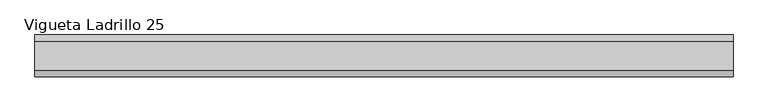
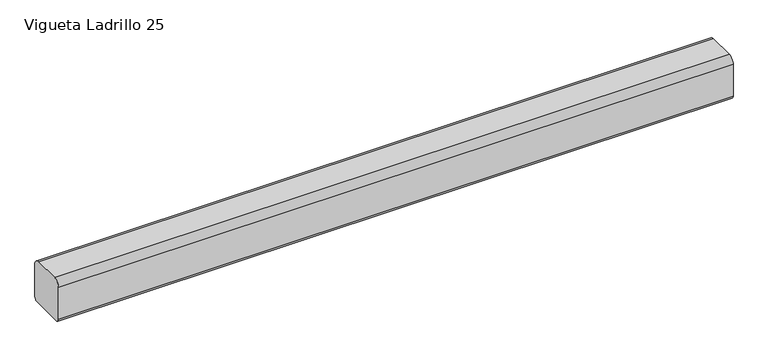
"""IFC4 building model written with IfcOpenShell, lengths in millimetres: beam geometry, Vigueta Ladrillo 25 : Ladrillo Exacta 25."""

from ifc_helpers import new_model, si_unit, point, frame, frame_2d, origin, place, context, project, spatial, polyline, circle_curve, trimmed, segment, composite_curve, outline, extrude, source, transform, mapped, element, save


def vigueta_ladrillo_25_3ea38565(model_context):
    return source(origin(), model_context, "Body", "SweptSolid", [
        extrude(outline(composite_curve([segment(trimmed(circle_curve(frame_2d((64.7, 73.1)), 30.5), [point((64.7, 103.6))], [point((95.2, 73.1))], False, "CARTESIAN"), True, "CONTINUOUS"), segment(polyline([(95.2, 73.1), (95.2, -85.3)]), True, "CONTINUOUS"), segment(trimmed(circle_curve(frame_2d((76.9, -85.3)), 18.3), [point((95.2, -85.3))], [point((76.9, -103.6))], False, "CARTESIAN"), True, "CONTINUOUS"), segment(polyline([(76.9, -103.6), (-76.9, -103.6)]), True, "CONTINUOUS"), segment(trimmed(circle_curve(frame_2d((-76.9, -85.3)), 18.3), [point((-76.9, -103.6))], [point((-95.2, -85.3))], False, "CARTESIAN"), True, "CONTINUOUS"), segment(polyline([(-95.2, -85.3), (-95.2, 73.1)]), True, "CONTINUOUS"), segment(trimmed(circle_curve(frame_2d((-64.7, 73.1)), 30.5), [point((-95.2, 73.1))], [point((-64.7, 103.6))], False, "CARTESIAN"), True, "CONTINUOUS"), segment(polyline([(-64.7, 103.6), (64.7, 103.6)]), True, "CONTINUOUS")], self_intersect=False)), frame((-1582.7, 0.0, 0.0), z_axis=(1.0, 0.0, 0.0), x_axis=(0.0, 1.0, 0.0)), (0.0, 0.0, 1.0), 3165.4),
    ])


if __name__ == "__main__":
    model = new_model("IFC4")
    model_context = context("Model", 3, world=origin())
    ifc_project = project(units=[si_unit("LENGTHUNIT", "METRE", prefix="MILLI")], contexts=[model_context])
    site = spatial("IfcSite", under=ifc_project)
    building = spatial("IfcBuilding", under=site)
    placement = place(None, origin())
    vigueta_ladrillo_25_shape = vigueta_ladrillo_25_3ea38565(model_context)
    element("IfcBeam", 1, ObjectType="Vigueta Ladrillo 25 : Ladrillo Exacta 25", at=placement, inside=building, context=model_context, shape_type="MappedRepresentation", body=[
        mapped(vigueta_ladrillo_25_shape, transform((0.0, 0.0, 0.0), x_axis=(1.0, 0.0, 0.0), y_axis=(0.0, 1.0, 0.0), z_axis=(0.0, 0.0, 1.0))),
    ])
    save(model, "model.ifc")
